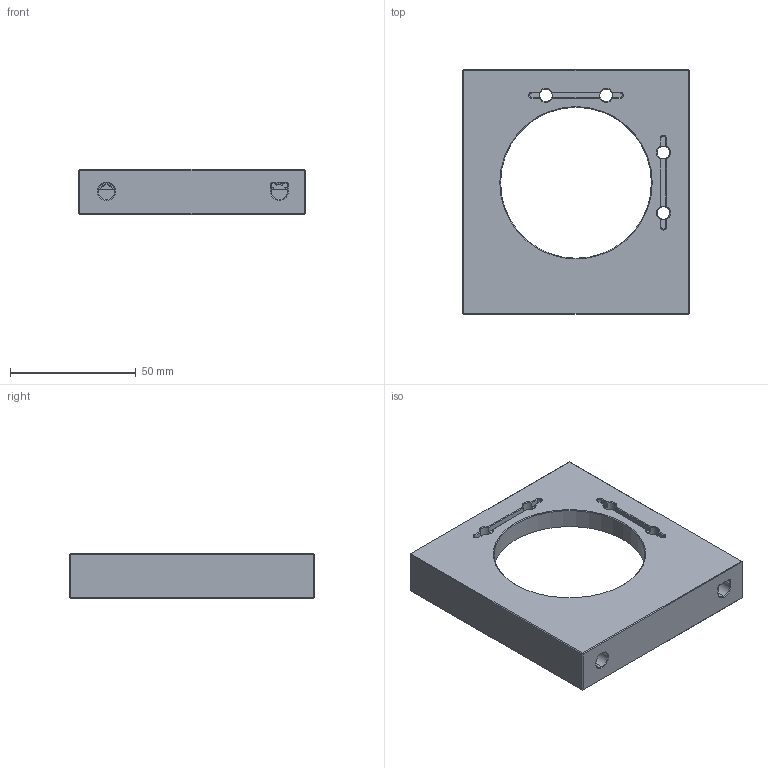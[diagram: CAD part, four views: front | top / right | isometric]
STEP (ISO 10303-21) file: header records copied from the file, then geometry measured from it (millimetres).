
FILE_DESCRIPTION (( 'STEP AP203' ), '1' );
FILE_NAME ('3.STEP', '2024-05-31T01:47:00', ( '' ), ( '' ), 'SwSTEP 2.0', 'SolidWorks 2024', '' );
FILE_SCHEMA (( 'CONFIG_CONTROL_DESIGN' ));
Length unit declared in the file: millimetre
Products named in the file (1): 3
Bounding box: 90 x 97.32 x 18 mm (x, y, z)
Volume: 65003.6 mm3; surface area: 24750.4 mm2
Topology: 1 solids, 1 shells, 147 faces, 378 edges, 226 vertices
Faces by surface type: plane 73, cylinder 38, cone 36
Entity records: 4525 total; most frequent: CARTESIAN_POINT 808, DIRECTION 794, ORIENTED_EDGE 748, EDGE_CURVE 374, AXIS2_PLACEMENT_3D 292, VERTEX_POINT 226, LINE 210, VECTOR 210
